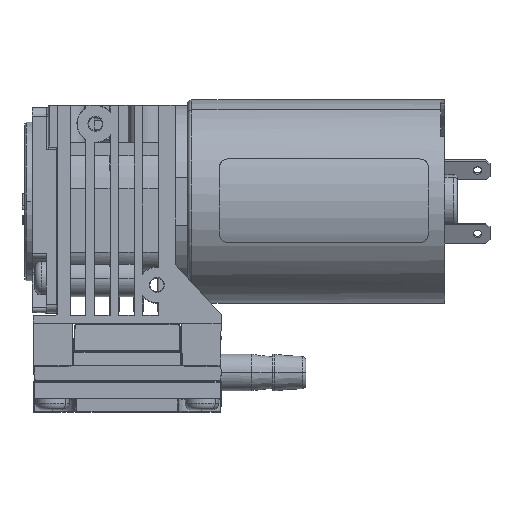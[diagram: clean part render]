
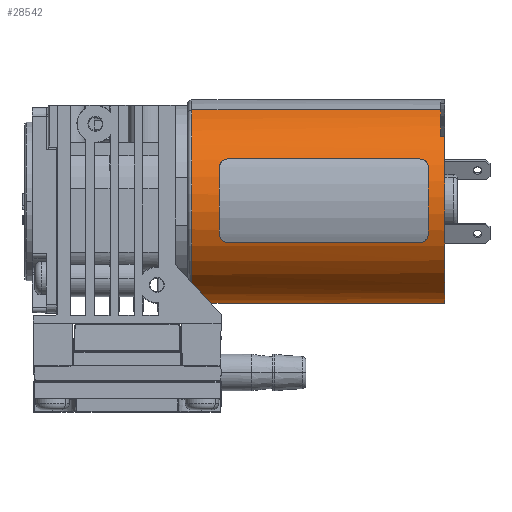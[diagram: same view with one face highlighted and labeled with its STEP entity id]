
A CAD part, top view. The second image highlights one B-rep face of the part: STEP entity #28542.
In plain terms, the highlighted cylindrical face has radius 12.2 mm (diameter 24.4 mm), a partial arc.
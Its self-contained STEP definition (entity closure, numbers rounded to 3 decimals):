
#753 = AXIS2_PLACEMENT_3D ( 'NONE', #48640, #52792, #39111 ) ;
#1408 = CARTESIAN_POINT ( 'NONE',  ( 0.5, 10.965, 5.348 ) ) ;
#1954 = CARTESIAN_POINT ( 'NONE',  ( -67.745, 10.965, 5.348 ) ) ;
#2338 = VERTEX_POINT ( 'NONE', #12885 ) ;
#2446 = EDGE_CURVE ( 'NONE', #4056, #3339, #54189, .T. ) ;
#3339 = VERTEX_POINT ( 'NONE', #51398 ) ;
#3505 = VECTOR ( 'NONE', #56026, 1000. ) ;
#4056 = VERTEX_POINT ( 'NONE', #23395 ) ;
#5592 = VERTEX_POINT ( 'NONE', #43305 ) ;
#8221 = DIRECTION ( 'NONE',  ( 0., 0.899, 0.438 ) ) ;
#10230 = DIRECTION ( 'NONE',  ( 0., -0.899, -0.438 ) ) ;
#11547 = CARTESIAN_POINT ( 'NONE',  ( 30.3, 0., 0. ) ) ;
#12879 = DIRECTION ( 'NONE',  ( 1., 0., 0. ) ) ;
#12885 = CARTESIAN_POINT ( 'NONE',  ( 30.3, 10.965, 5.348 ) ) ;
#12997 = AXIS2_PLACEMENT_3D ( 'NONE', #11547, #17207, #8221 ) ;
#16412 = EDGE_CURVE ( 'NONE', #58379, #5592, #20829, .T. ) ;
#17207 = DIRECTION ( 'NONE',  ( 1., 0., 0. ) ) ;
#17358 = LINE ( 'NONE', #44841, #30318 ) ;
#17452 = ORIENTED_EDGE ( 'NONE', *, *, #24093, .F. ) ;
#18872 = DIRECTION ( 'NONE',  ( -1., 0., 0. ) ) ;
#20518 = CIRCLE ( 'NONE', #12997, 12.2 ) ;
#20829 = CIRCLE ( 'NONE', #56041, 12.2 ) ;
#21487 = ORIENTED_EDGE ( 'NONE', *, *, #2446, .T. ) ;
#23395 = CARTESIAN_POINT ( 'NONE',  ( 30.3, -10.965, -5.348 ) ) ;
#24093 = EDGE_CURVE ( 'NONE', #33961, #5592, #25902, .T. ) ;
#24271 = DIRECTION ( 'NONE',  ( 0., -0.899, -0.438 ) ) ;
#24601 = VERTEX_POINT ( 'NONE', #1408 ) ;
#25902 = LINE ( 'NONE', #39919, #38233 ) ;
#26192 = DIRECTION ( 'NONE',  ( 1., 0., 0. ) ) ;
#27635 = EDGE_CURVE ( 'NONE', #41967, #24601, #44772, .T. ) ;
#28502 = CARTESIAN_POINT ( 'NONE',  ( 0.5, 0., 0. ) ) ;
#28542 = ADVANCED_FACE ( 'NONE', ( #45600 ), #45895, .T. ) ;
#28615 = CARTESIAN_POINT ( 'NONE',  ( 0.5, -10.965, -5.348 ) ) ;
#30318 = VECTOR ( 'NONE', #35575, 1000. ) ;
#31174 = EDGE_LOOP ( 'NONE', ( #47307, #33727, #40862, #55105, #21487, #55621, #50989, #17452 ) ) ;
#33642 = LINE ( 'NONE', #1954, #3505 ) ;
#33727 = ORIENTED_EDGE ( 'NONE', *, *, #44003, .T. ) ;
#33961 = VERTEX_POINT ( 'NONE', #46218 ) ;
#34373 = CARTESIAN_POINT ( 'NONE',  ( 30.8, -12.194, -0.384 ) ) ;
#35575 = DIRECTION ( 'NONE',  ( -1., 0., 0. ) ) ;
#36857 = AXIS2_PLACEMENT_3D ( 'NONE', #42304, #42032, #51237 ) ;
#37756 = LINE ( 'NONE', #55899, #39152 ) ;
#38101 = EDGE_CURVE ( 'NONE', #4056, #41967, #17358, .T. ) ;
#38233 = VECTOR ( 'NONE', #26192, 1000. ) ;
#39111 = DIRECTION ( 'NONE',  ( 0., -0.899, -0.438 ) ) ;
#39152 = VECTOR ( 'NONE', #12879, 1000. ) ;
#39919 = CARTESIAN_POINT ( 'NONE',  ( -67.745, 7.81, 9.372 ) ) ;
#40862 = ORIENTED_EDGE ( 'NONE', *, *, #27635, .F. ) ;
#41943 = DIRECTION ( 'NONE',  ( -1., 0., 0. ) ) ;
#41967 = VERTEX_POINT ( 'NONE', #28615 ) ;
#42032 = DIRECTION ( 'NONE',  ( -1., 0., 0. ) ) ;
#42304 = CARTESIAN_POINT ( 'NONE',  ( -67.745, 0., 0. ) ) ;
#43305 = CARTESIAN_POINT ( 'NONE',  ( 30.8, 7.81, 9.372 ) ) ;
#43828 = AXIS2_PLACEMENT_3D ( 'NONE', #28502, #41943, #10230 ) ;
#44003 = EDGE_CURVE ( 'NONE', #2338, #24601, #33642, .T. ) ;
#44772 = CIRCLE ( 'NONE', #43828, 12.2 ) ;
#44841 = CARTESIAN_POINT ( 'NONE',  ( -67.745, -10.965, -5.348 ) ) ;
#45600 = FACE_OUTER_BOUND ( 'NONE', #31174, .T. ) ;
#45895 = CYLINDRICAL_SURFACE ( 'NONE', #36857, 12.2 ) ;
#46067 = CARTESIAN_POINT ( 'NONE',  ( 30.8, 0., 0. ) ) ;
#46218 = CARTESIAN_POINT ( 'NONE',  ( 30.3, 7.81, 9.372 ) ) ;
#47307 = ORIENTED_EDGE ( 'NONE', *, *, #52828, .F. ) ;
#48640 = CARTESIAN_POINT ( 'NONE',  ( 30.3, 0., 0. ) ) ;
#50989 = ORIENTED_EDGE ( 'NONE', *, *, #16412, .T. ) ;
#51237 = DIRECTION ( 'NONE',  ( 0., -0.899, -0.438 ) ) ;
#51398 = CARTESIAN_POINT ( 'NONE',  ( 30.3, -12.194, -0.384 ) ) ;
#52792 = DIRECTION ( 'NONE',  ( -1., 0., 0. ) ) ;
#52828 = EDGE_CURVE ( 'NONE', #2338, #33961, #20518, .T. ) ;
#54189 = CIRCLE ( 'NONE', #753, 12.2 ) ;
#55105 = ORIENTED_EDGE ( 'NONE', *, *, #38101, .F. ) ;
#55509 = EDGE_CURVE ( 'NONE', #3339, #58379, #37756, .T. ) ;
#55621 = ORIENTED_EDGE ( 'NONE', *, *, #55509, .T. ) ;
#55899 = CARTESIAN_POINT ( 'NONE',  ( -67.745, -12.194, -0.384 ) ) ;
#56026 = DIRECTION ( 'NONE',  ( -1., 0., 0. ) ) ;
#56041 = AXIS2_PLACEMENT_3D ( 'NONE', #46067, #18872, #24271 ) ;
#58379 = VERTEX_POINT ( 'NONE', #34373 ) ;
